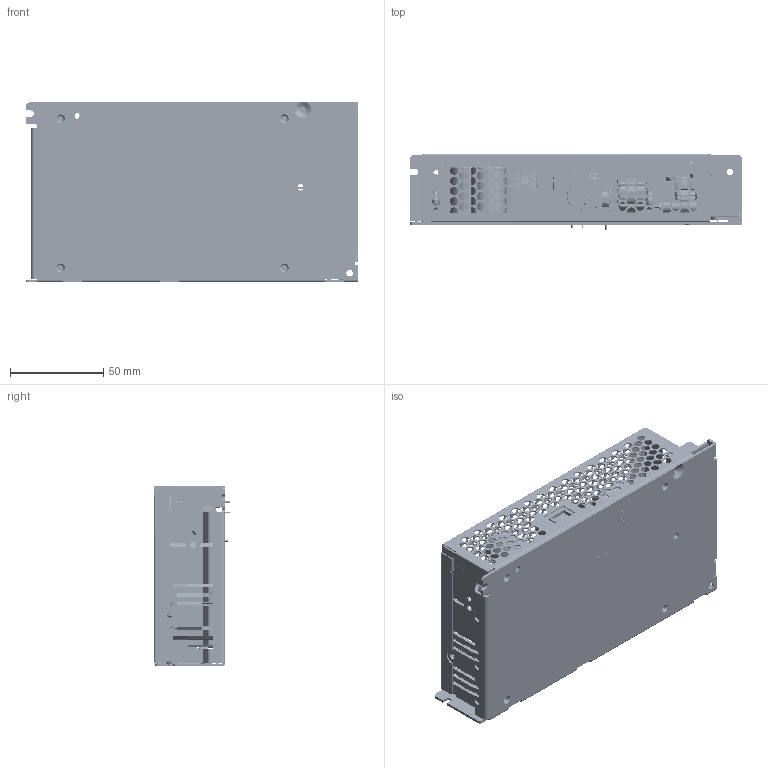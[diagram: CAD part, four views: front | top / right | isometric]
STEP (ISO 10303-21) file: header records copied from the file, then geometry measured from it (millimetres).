
FILE_DESCRIPTION((''),'2;1');
FILE_NAME('ASM-100W_ASM','2013-10-08T',('ERIC.YP.CHEN'),(''),'PRO/ENGINEER BY PARAMETRIC TECHNOLOGY CORPORATION, 2010280','PRO/ENGINEER BY PARAMETRIC TECHNOLOGY CORPORATION, 2010280','');
FILE_SCHEMA(('CONFIG_CONTROL_DESIGN'));
Products named in the file (29): CHASSIS-100W-0719-3MM; STUD_6-32_L4_5_12; CHASSIS-100W_ASM; 100W-COVER-0719; PWB-100W-0118; D101; INSULATOR_PWB; VR550_12_1; LED350_12_1; SW1; TUBE_Q1; CLIP; L101_1; CY2; FUNCTION_LABEL; CONNECTOR_04_12_1; SCREW; CONN_7P_ASSY_ASM; T1; 2875286400_FL1; 2875106600_FL2; F1_12_1; 200112120071_BD1; NTC1; L101_2; L102; IC101; HSK_D1; ASM-100W_ASM
Assembly tree (41 placements, depth 3):
  ASM-100W_ASM
    CHASSIS-100W_ASM
      CHASSIS-100W-0719-3MM
      STUD_6-32_L4_5_12  x2
    100W-COVER-0719
    PWB-100W-0118
    D101  x3
    INSULATOR_PWB
    VR550_12_1
    LED350_12_1
    SW1
    TUBE_Q1
    CLIP
    L101_1
    CY2  x4
    FUNCTION_LABEL
    CONN_7P_ASSY_ASM
      CONNECTOR_04_12_1
      SCREW  x7
    T1
    2875286400_FL1
    2875106600_FL2
    F1_12_1
    200112120071_BD1
    NTC1  x2
    L101_2
    L102
    IC101
    HSK_D1
Bounding box: 178 x 41.05 x 97 mm (x, y, z)
Volume: 162083.4 mm3; surface area: 209763.2 mm2
Topology: 84 solids, 92 shells, 6316 faces, 15982 edges, 9773 vertices
Faces by surface type: cylinder 2925, plane 2089, torus 1116, bspline 92, sphere 36, cone 34, revolution 24
Entity records: 197106 total; most frequent: CARTESIAN_POINT 57437, DIRECTION 30530, ORIENTED_EDGE 28054, EDGE_CURVE 14029, AXIS2_PLACEMENT_3D 11872, VERTEX_POINT 8523, EDGE_LOOP 7008, VECTOR 6780
